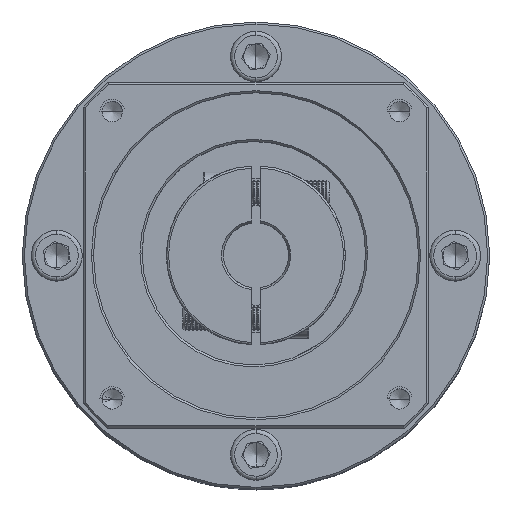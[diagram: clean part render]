
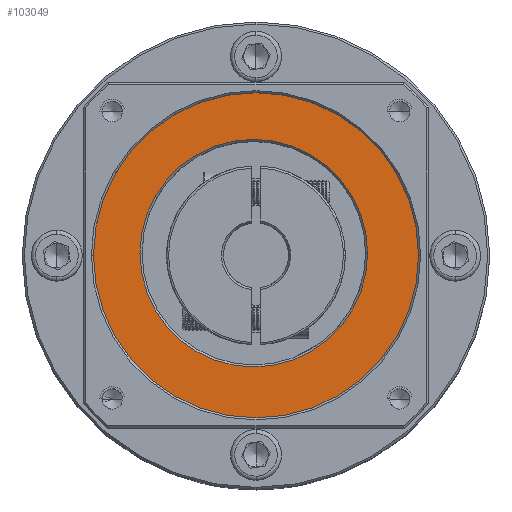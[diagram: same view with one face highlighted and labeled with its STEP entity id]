
A CAD part, top view. The second image highlights one B-rep face of the part: STEP entity #103049.
In plain terms, the highlighted planar face has unit normal (0, 0, 1).
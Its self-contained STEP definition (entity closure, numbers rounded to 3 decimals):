
#3301 = CARTESIAN_POINT ( 'NONE',  ( 90.126, -29.245, 17.397 ) ) ;
#9371 = CARTESIAN_POINT ( 'NONE',  ( 89.584, -28.711, 17.397 ) ) ;
#12157 = CARTESIAN_POINT ( 'NONE',  ( 90.126, -29.245, 17.397 ) ) ;
#18779 = FACE_BOUND ( 'NONE', #88254, .T. ) ;
#25575 = DIRECTION ( 'NONE',  ( 1., 0., 0. ) ) ;
#28452 = AXIS2_PLACEMENT_3D ( 'NONE', #3301, #91244, #62465 ) ;
#31810 = CARTESIAN_POINT ( 'NONE',  ( 89.584, -28.711, 17.397 ) ) ;
#36004 = EDGE_CURVE ( 'NONE', #68179, #108146, #106524, .T. ) ;
#36974 = FACE_OUTER_BOUND ( 'NONE', #53491, .T. ) ;
#39768 = DIRECTION ( 'NONE',  ( 1., 0., 0. ) ) ;
#40953 = EDGE_CURVE ( 'NONE', #76847, #96250, #104434, .T. ) ;
#41422 = DIRECTION ( 'NONE',  ( 0., 0., -1. ) ) ;
#42114 = DIRECTION ( 'NONE',  ( 0., 0., 1. ) ) ;
#46325 = ORIENTED_EDGE ( 'NONE', *, *, #99470, .T. ) ;
#51841 = DIRECTION ( 'NONE',  ( 1., 0., 0. ) ) ;
#53491 = EDGE_LOOP ( 'NONE', ( #46325, #119478 ) ) ;
#56270 = ORIENTED_EDGE ( 'NONE', *, *, #67979, .T. ) ;
#61518 = CIRCLE ( 'NONE', #100841, 40. ) ;
#62042 = PLANE ( 'NONE',  #28452 ) ;
#62465 = DIRECTION ( 'NONE',  ( 1., 0., 0. ) ) ;
#63453 = CARTESIAN_POINT ( 'NONE',  ( 130.126, -29.245, 17.397 ) ) ;
#66273 = ORIENTED_EDGE ( 'NONE', *, *, #40953, .T. ) ;
#67763 = AXIS2_PLACEMENT_3D ( 'NONE', #31810, #41422, #39768 ) ;
#67979 = EDGE_CURVE ( 'NONE', #96250, #76847, #96409, .T. ) ;
#68179 = VERTEX_POINT ( 'NONE', #73121 ) ;
#73121 = CARTESIAN_POINT ( 'NONE',  ( 50.126, -29.245, 17.397 ) ) ;
#76847 = VERTEX_POINT ( 'NONE', #109517 ) ;
#78222 = DIRECTION ( 'NONE',  ( 0., 0., -1. ) ) ;
#83007 = CARTESIAN_POINT ( 'NONE',  ( 90.126, -29.245, 17.397 ) ) ;
#88254 = EDGE_LOOP ( 'NONE', ( #66273, #56270 ) ) ;
#89649 = AXIS2_PLACEMENT_3D ( 'NONE', #9371, #78222, #97669 ) ;
#91244 = DIRECTION ( 'NONE',  ( 0., 0., 1. ) ) ;
#93981 = DIRECTION ( 'NONE',  ( 0., 0., 1. ) ) ;
#96250 = VERTEX_POINT ( 'NONE', #114563 ) ;
#96409 = CIRCLE ( 'NONE', #67763, 28. ) ;
#97669 = DIRECTION ( 'NONE',  ( 1., 0., 0. ) ) ;
#99470 = EDGE_CURVE ( 'NONE', #108146, #68179, #61518, .T. ) ;
#100841 = AXIS2_PLACEMENT_3D ( 'NONE', #12157, #42114, #51841 ) ;
#103049 = ADVANCED_FACE ( 'NONE', ( #36974, #18779 ), #62042, .T. ) ;
#104434 = CIRCLE ( 'NONE', #89649, 28. ) ;
#106524 = CIRCLE ( 'NONE', #109987, 40. ) ;
#108146 = VERTEX_POINT ( 'NONE', #63453 ) ;
#109517 = CARTESIAN_POINT ( 'NONE',  ( 117.584, -28.711, 17.397 ) ) ;
#109987 = AXIS2_PLACEMENT_3D ( 'NONE', #83007, #93981, #25575 ) ;
#114563 = CARTESIAN_POINT ( 'NONE',  ( 61.584, -28.711, 17.397 ) ) ;
#119478 = ORIENTED_EDGE ( 'NONE', *, *, #36004, .T. ) ;
